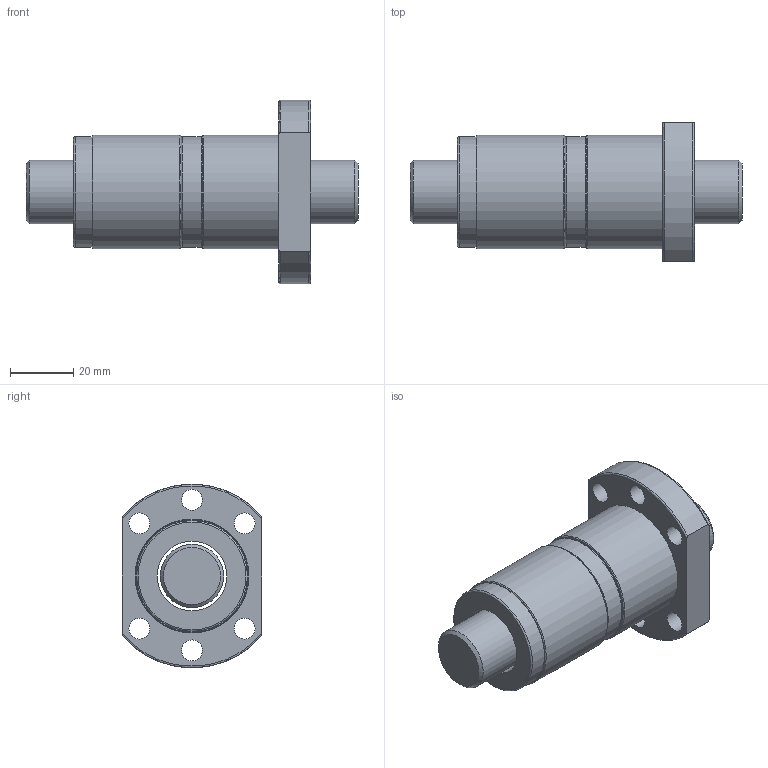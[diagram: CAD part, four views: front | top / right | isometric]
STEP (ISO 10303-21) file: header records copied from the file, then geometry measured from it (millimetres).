
FILE_DESCRIPTION(/* description */ (''),/* implementation_level */ '2;1');
FILE_NAME(/* name */ 'DFS2005',/* time_stamp */ '2007-10-26T13:32:08+08:00',/* author */ (''),/* organization */ (''),/* preprocessor_version */ 'ST-DEVELOPER v9',/* originating_system */ 'UGS - NX 3.0',/* authorisation */ '');
FILE_SCHEMA (('CONFIG_CONTROL_DESIGN'));
Length unit declared in the file: millimetre
Products named in the file (1): jaso15A4i31q
Bounding box: 104.85 x 44 x 58 mm (x, y, z)
Volume: 90002.2 mm3; surface area: 31891.8 mm2
Topology: 6 solids, 6 shells, 49 faces, 102 edges, 67 vertices
Faces by surface type: cylinder 20, plane 16, torus 11, cone 2
Full cylindrical faces by diameter (mm): 6.6 x6, 20 x1, 22 x5, 35 x3, 36 x3
Entity records: 1384 total; most frequent: CARTESIAN_POINT 324, DIRECTION 214, ORIENTED_EDGE 138, AXIS2_PLACEMENT_3D 103, EDGE_LOOP 100, FACE_BOUND 76, EDGE_CURVE 69, VERTEX_POINT 61
